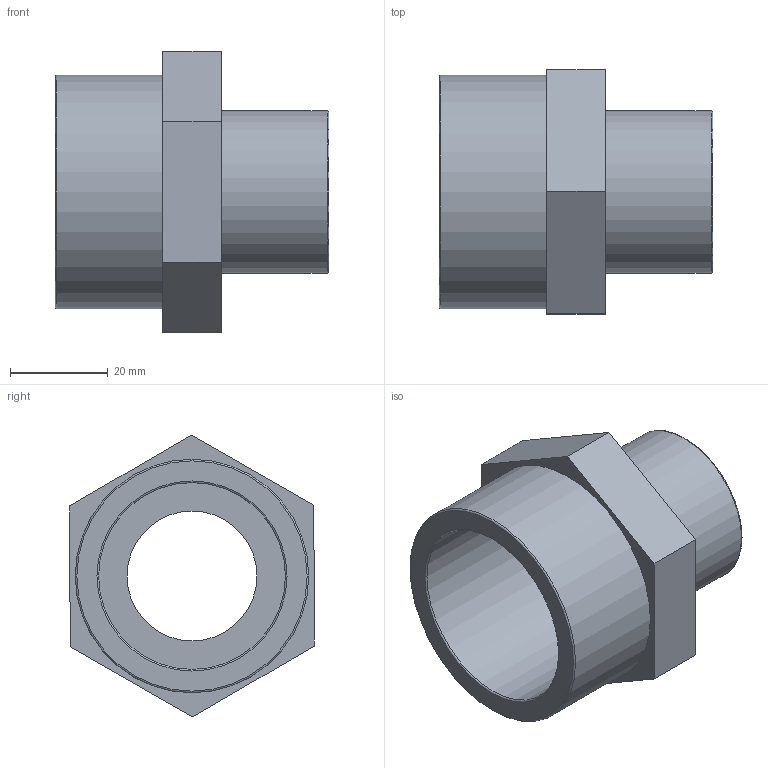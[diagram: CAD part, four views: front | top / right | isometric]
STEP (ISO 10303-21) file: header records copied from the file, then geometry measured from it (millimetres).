
FILE_DESCRIPTION(/* description */ ('PLASSON THR. REDUCING NIPPLE 1"-1.1/2" PVC'),/* implementation_level */ '2;1');
FILE_NAME(/* name */ 'C:\Dropbox\KIMPROJECTS-Inventor\99-16-3568-Processing\PVC Catalog 2017\051601\051601015010.ipt.stp',/* time_stamp */ '2017-12-07T16:00:57+02:00',/* author */ ('KIM'),/* organization */ (''),/* preprocessor_version */ 'ST-DEVELOPER v15.6',/* originating_system */ 'Autodesk Inventor 2015',/* authorisation */ '');
FILE_SCHEMA (('AUTOMOTIVE_DESIGN { 1 0 10303 214 3 1 1 }'));
Length unit declared in the file: millimetre
Products named in the file (1): 051601015010
Bounding box: 56 x 50.11 x 57.73 mm (x, y, z)
Volume: 35886.2 mm3; surface area: 16596 mm2
Topology: 1 solids, 1 shells, 19 faces, 38 edges, 24 vertices
Faces by surface type: plane 11, torus 4, cylinder 4
Full cylindrical faces by diameter (mm): 26.599 x1, 33.249 x1, 38.242 x1, 47.803 x1
Entity records: 480 total; most frequent: DIRECTION 82, CARTESIAN_POINT 74, ORIENTED_EDGE 60, EDGE_LOOP 32, AXIS2_PLACEMENT_3D 32, EDGE_CURVE 30, VERTEX_POINT 24, FACE_OUTER_BOUND 19
